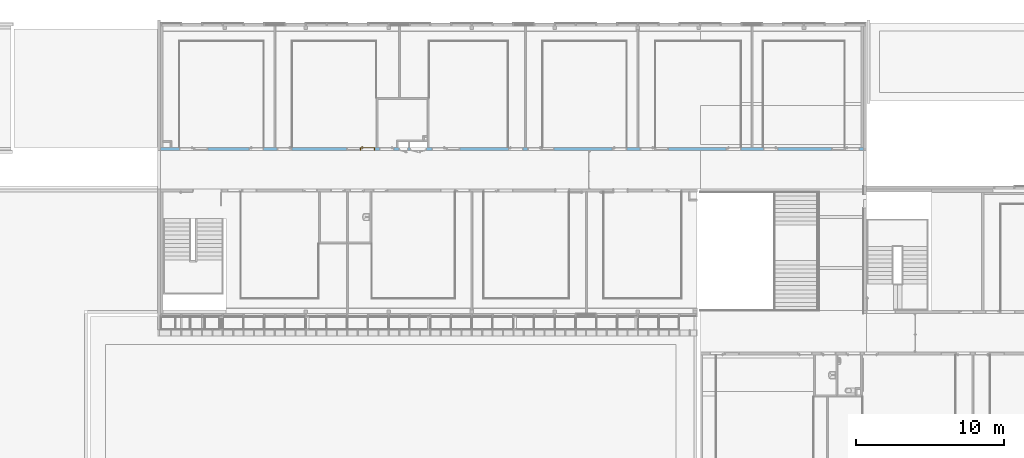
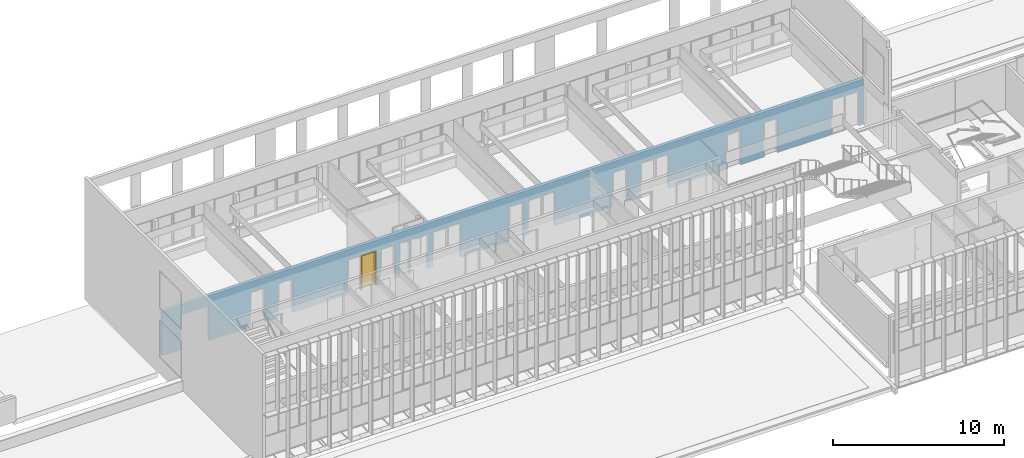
# One storey, part 51 of 106: 1 door, 21 openings, plus 1 element that does not belong to this part.
"""IFC2X3 building model written with IfcOpenShell, lengths in centimetres."""

import ifcopenshell
import ifcopenshell.guid

model = None  # the IFC model being written
_history = None  # IfcOwnerHistory: only IFC2X3 demands one
_inside = {}  # id of a spatial element -> (the spatial element, [elements in it])
_under = {}  # id of a project, library or spatial element -> (it, [spatial elements below it])
_declared = {}  # id of a project -> (the project, [libraries it declares])
_typed = {}  # id of a type object -> (the type object, [elements of that type])
_made_of = {}  # id of a material, layer set ... -> (it, [elements and type objects made of it])


def new_model(schema):
    """Start an empty IFC model of exactly this schema.

    Asked for "IFC4X3", IfcOpenShell would pick the latest addendum, in which some entities
    have other attributes; the version numbers below select the first issue.
    IFC2X3 requires an IfcOwnerHistory on every rooted entity: one is made here for all.
    """
    global model, _history
    if schema == "IFC4X3":
        model = ifcopenshell.file(schema_version=(4, 3, 0, 0))
    else:
        model = ifcopenshell.file(schema=schema)
    _inside.clear()
    _under.clear()
    _declared.clear()
    _typed.clear()
    _made_of.clear()
    _history = None
    if model.schema == "IFC2X3":
        org = make("IfcOrganization", Name="unknown")
        user = make(
            "IfcPersonAndOrganization",
            ThePerson=make("IfcPerson", FamilyName="unknown"),
            TheOrganization=org,
        )
        app = make(
            "IfcApplication",
            ApplicationDeveloper=org,
            Version="unknown",
            ApplicationFullName="unknown",
            ApplicationIdentifier="unknown",
        )
        _history = make(
            "IfcOwnerHistory",
            OwningUser=user,
            OwningApplication=app,
            ChangeAction="ADDED",
            CreationDate=0,
        )
    return model


def make(cls, **values):
    """One entity of the class cls with the attributes given. An attribute that is None is left unset."""
    return model.create_entity(
        cls, **{name: value for name, value in values.items() if value is not None}
    )


def entity(cls, *values):
    """Any entity or typed value of the class cls, its attributes in the order of the schema. None: left unset."""
    e = model.create_entity(cls)
    for i, value in enumerate(values):
        if value is not None:
            e[i] = value
    return e


def rooted(cls, **values):
    """An entity with a GlobalId (a new one), such as an element, a storey or a relation."""
    return make(cls, GlobalId=ifcopenshell.guid.new(), OwnerHistory=_history, **values)


def si_unit(unit_type, name, prefix=None):
    """IfcSIUnit, for example si_unit("LENGTHUNIT", "METRE", prefix="MILLI")."""
    return make("IfcSIUnit", UnitType=unit_type, Prefix=prefix, Name=name)


def converted_unit(unit_type, name, factor, base, dimensions=None, offset=None):
    """IfcConversionBasedUnit, such as the inch: factor (a typed value) times the base unit."""
    return make(
        "IfcConversionBasedUnit"
        if offset is None
        else "IfcConversionBasedUnitWithOffset",
        ConversionOffset=offset,
        Dimensions=None
        if dimensions is None
        else entity("IfcDimensionalExponents", *dimensions),
        UnitType=unit_type,
        Name=name,
        ConversionFactor=make(
            "IfcMeasureWithUnit", ValueComponent=factor, UnitComponent=base
        ),
    )


def derived_unit(unit_type, elements):
    """IfcDerivedUnit: a product of units, each with its exponent."""
    return make(
        "IfcDerivedUnit",
        Elements=[
            make("IfcDerivedUnitElement", Unit=unit, Exponent=power)
            for unit, power in elements
        ],
        UnitType=unit_type,
    )


def assignment(units):
    """IfcUnitAssignment: the units of a project."""
    return None if units is None else make("IfcUnitAssignment", Units=units)


def point(xyz):
    """IfcCartesianPoint."""
    return None if xyz is None else make("IfcCartesianPoint", Coordinates=xyz)


def direction(xyz):
    """IfcDirection."""
    return None if xyz is None else make("IfcDirection", DirectionRatios=xyz)


def frame(location, z_axis=None, x_axis=None):
    """IfcAxis2Placement3D, a coordinate frame: its origin and axes. An axis left out is left unset."""
    return make(
        "IfcAxis2Placement3D",
        Location=point(location),
        Axis=direction(z_axis),
        RefDirection=direction(x_axis),
    )


def frame_2d(location, x_axis=None):
    """IfcAxis2Placement2D, a coordinate frame in the plane: its origin and x axis."""
    return make(
        "IfcAxis2Placement2D", Location=point(location), RefDirection=direction(x_axis)
    )


def origin():
    """The frame at (0, 0, 0) with its axes left unset."""
    return frame((0.0, 0.0, 0.0))


def place(relative_to, where):
    """IfcLocalPlacement: puts the frame where relative to a parent placement (None: the world)."""
    return make(
        "IfcLocalPlacement", PlacementRelTo=relative_to, RelativePlacement=where
    )


def context(
    kind, dimensions, precision=None, world=None, true_north=None, identifier=None
):
    """IfcGeometricRepresentationContext, for example the 3D "Model" context."""
    return make(
        "IfcGeometricRepresentationContext",
        ContextIdentifier=identifier,
        ContextType=kind,
        CoordinateSpaceDimension=dimensions,
        Precision=precision,
        WorldCoordinateSystem=world,
        TrueNorth=true_north,
    )


def subcontext(parent, identifier, kind, view, scale=None):
    """IfcGeometricRepresentationSubContext, for example "Body" below "Model"."""
    return make(
        "IfcGeometricRepresentationSubContext",
        ContextIdentifier=identifier,
        ContextType=kind,
        ParentContext=parent,
        TargetScale=scale,
        TargetView=view,
    )


def project(units=None, contexts=None):
    """IfcProject with its units and contexts."""
    return rooted(
        "IfcProject",
        Name="project",
        RepresentationContexts=contexts,
        UnitsInContext=assignment(units),
    )


def spatial(cls, under=None, at=None, **own):
    """A site, building, storey or space (cls), placed at a placement, below another one or the project."""
    s = rooted(cls, ObjectPlacement=at, **own)
    if under is not None:
        _under.setdefault(under.id(), (under, []))[1].append(s)
    return s


def polyline(points):
    """IfcPolyline through the points."""
    return make("IfcPolyline", Points=[point(p) for p in points])


def profile(cls, at=None, kind="AREA", **sizes):
    """A parametric profile (cls). Its sizes go by their IFC names, for example OverallWidth=200.0."""
    return make(cls, ProfileType=kind, Position=at, **sizes)


def rectangle(**sizes):
    """IfcRectangleProfileDef."""
    return profile("IfcRectangleProfileDef", **sizes)


def extrude(swept, where, along, depth):
    """IfcExtrudedAreaSolid: the profile swept, set in the frame where, extruded along a direction by depth."""
    return make(
        "IfcExtrudedAreaSolid",
        SweptArea=swept,
        Position=where,
        ExtrudedDirection=direction(along),
        Depth=depth,
    )


def clip(a, b, op="DIFFERENCE"):
    """IfcBooleanClippingResult: the solid a cut by the half space b."""
    return make(
        "IfcBooleanClippingResult", Operator=op, FirstOperand=a, SecondOperand=b
    )


def bounded_halfspace(plane, agree, where, boundary):
    """IfcPolygonalBoundedHalfSpace: a half space limited to a polygon's prism."""
    return make(
        "IfcPolygonalBoundedHalfSpace",
        BaseSurface=make("IfcPlane", Position=plane),
        AgreementFlag=agree,
        Position=where,
        PolygonalBoundary=boundary,
    )


def faces_of(points, faces, orient=None, outer=None):
    """IfcFace entities. A face is a list of loops; a loop is a list of indices into points, from 0.

    orient and outer hold one flag for each loop. By default every Orientation is true, the
    first loop of a face is its IfcFaceOuterBound and the others are IfcFaceBound.
    """
    made = []
    for i, loops in enumerate(faces):
        bounds = []
        for j, loop in enumerate(loops):
            is_outer = j == 0 if outer is None else outer[i][j]
            bounds.append(
                make(
                    "IfcFaceOuterBound" if is_outer else "IfcFaceBound",
                    Bound=make("IfcPolyLoop", Polygon=[points[k] for k in loop]),
                    Orientation=True if orient is None else orient[i][j],
                )
            )
        made.append(make("IfcFace", Bounds=bounds))
    return made


def faceted_brep(points, faces, orient=None, outer=None, voids=None):
    """IfcFacetedBrep: a solid bounded by flat faces; with voids (closed shells), ...WithVoids."""
    shared = [point(p) for p in points]
    hull = make("IfcClosedShell", CfsFaces=faces_of(shared, faces, orient, outer))
    if voids is None:
        return make("IfcFacetedBrep", Outer=hull)
    return make(
        "IfcFacetedBrepWithVoids",
        Outer=hull,
        Voids=[
            make(cls, CfsFaces=faces_of(shared, fs, o, b)) for cls, fs, o, b in voids
        ],
    )


def shape(context_of_items, identifier, shape_type, items):
    """IfcShapeRepresentation: the items that make up one representation, for example the "Body"."""
    return make(
        "IfcShapeRepresentation",
        ContextOfItems=context_of_items,
        RepresentationIdentifier=identifier,
        RepresentationType=shape_type,
        Items=items,
    )


def source(mapping_origin, context_of_items, identifier, shape_type, items):
    """IfcRepresentationMap: a shape defined once, which mapped items show again and again."""
    return make(
        "IfcRepresentationMap",
        MappingOrigin=mapping_origin,
        MappedRepresentation=shape(context_of_items, identifier, shape_type, items),
    )


def transform(
    local_origin,
    x_axis=None,
    y_axis=None,
    z_axis=None,
    scale=None,
    scale2=None,
    scale3=None,
    uniform=True,
):
    """IfcCartesianTransformationOperator3D, or its non-uniform kind. x_axis, y_axis, z_axis: its Axis1, 2, 3."""
    if uniform:
        return make(
            "IfcCartesianTransformationOperator3D",
            Axis1=direction(x_axis),
            Axis2=direction(y_axis),
            LocalOrigin=point(local_origin),
            Scale=scale,
            Axis3=direction(z_axis),
        )
    return make(
        "IfcCartesianTransformationOperator3DnonUniform",
        Axis1=direction(x_axis),
        Axis2=direction(y_axis),
        LocalOrigin=point(local_origin),
        Scale=scale,
        Axis3=direction(z_axis),
        Scale2=scale2,
        Scale3=scale3,
    )


def mapped(mapping_source, mapping_target):
    """IfcMappedItem: shows the shape of a source again, moved by a transform."""
    return make(
        "IfcMappedItem", MappingSource=mapping_source, MappingTarget=mapping_target
    )


def material(Name=None, Category=None):
    """IfcMaterial."""
    return make("IfcMaterial", Name=Name, Category=Category)


def material_list(materials):
    """IfcMaterialList."""
    return make("IfcMaterialList", Materials=materials)


def layer(
    of_material, thickness, ventilated=None, Name=None, Category=None, Priority=None
):
    """IfcMaterialLayer: one layer of a wall or slab, of a material (None: an air gap)."""
    return make(
        "IfcMaterialLayer",
        Material=of_material,
        LayerThickness=thickness,
        IsVentilated=ventilated,
        Name=Name,
        Category=Category,
        Priority=Priority,
    )


def layer_set(layers, Name=None):
    """IfcMaterialLayerSet."""
    return make("IfcMaterialLayerSet", MaterialLayers=layers, LayerSetName=Name)


def layer_usage(for_layer_set, set_direction, sense, offset, extent=None):
    """IfcMaterialLayerSetUsage: how a layer set lies in its element."""
    return make(
        "IfcMaterialLayerSetUsage",
        ForLayerSet=for_layer_set,
        LayerSetDirection=set_direction,
        DirectionSense=sense,
        OffsetFromReferenceLine=offset,
        ReferenceExtent=extent,
    )


def made_of(thing, what):
    """Note that an element or type object is made of a material, layer set ...; save() writes the relation."""
    if what is not None:
        _made_of.setdefault(what.id(), (what, []))[1].append(thing)
    return thing


def type_object(cls, material=None, **own):
    """A type object (cls), such as IfcWallType, which elements share."""
    return made_of(rooted(cls, **own), material)


def type_shapes(of_type, sources):
    """Give a type object the sources (RepresentationMaps) that its elements show as mapped items."""
    of_type.RepresentationMaps = sources


def element(
    cls,
    number,
    at=None,
    inside=None,
    cuts=None,
    type_object=None,
    material=None,
    context=None,
    identifier="Body",
    shape_type=None,
    held_by="IfcProductDefinitionShape",
    body=None,
    shapes=None,
    **own,
):
    """One element of the class cls, such as IfcWall. Its Tag is "e" and its number.

    at: its placement. inside: the storey or other place that contains it. cuts: it is an
    opening in that element (IfcRelVoidsElement). A single representation is given by context,
    identifier, shape_type and body (its items); several are given by shapes. held_by: the class
    of the entity that holds the representations. save() writes the other relations.
    """
    e = rooted(cls, Tag="e%d" % number, ObjectPlacement=at, **own)
    if body is not None:
        shapes = [shape(context, identifier, shape_type, body)]
    if shapes is not None:
        e.Representation = make(held_by, Representations=shapes)
    if inside is not None:
        _inside.setdefault(inside.id(), (inside, []))[1].append(e)
    if cuts is not None:
        rooted(
            "IfcRelVoidsElement", RelatingBuildingElement=cuts, RelatedOpeningElement=e
        )
    if type_object is not None:
        _typed.setdefault(type_object.id(), (type_object, []))[1].append(e)
    return made_of(e, material)


def fill(opening, filler):
    """IfcRelFillsElement: the door or window that sits in an opening."""
    return rooted(
        "IfcRelFillsElement",
        RelatingOpeningElement=opening,
        RelatedBuildingElement=filler,
    )


def aggregate(whole, parts):
    """IfcRelAggregates: a whole, such as a stair, and the parts it consists of."""
    return rooted("IfcRelAggregates", RelatingObject=whole, RelatedObjects=parts)


def save(model, path):
    """Write the relations noted so far, then the file.

    IfcRelAggregates (storeys below a building ...), IfcRelContainedInSpatialStructure (elements
    in a storey), IfcRelDefinesByType, IfcRelAssociatesMaterial and IfcRelDeclares: one each for
    every whole, place, type object, material and project.
    """
    for whole, parts in _under.values():
        aggregate(whole, parts)
    for where, things in _inside.values():
        rooted(
            "IfcRelContainedInSpatialStructure",
            RelatedElements=things,
            RelatingStructure=where,
        )
    for kind, things in _typed.values():
        rooted("IfcRelDefinesByType", RelatedObjects=things, RelatingType=kind)
    for what, things in _made_of.values():
        rooted("IfcRelAssociatesMaterial", RelatedObjects=things, RelatingMaterial=what)
    for by, libraries in _declared.values():
        rooted("IfcRelDeclares", RelatingContext=by, RelatedDefinitions=libraries)
    model.write(path)


model = new_model("IFC2X3")

# Units and contexts
model_context = context("Model", 3, precision=0.001, world=origin(), true_north=direction((6.12303176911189e-17, 1.0)))
body_context = subcontext(model_context, "Body", "Model", "MODEL_VIEW")
ifc_project = project(units=[si_unit("LENGTHUNIT", "METRE", prefix="CENTI"), si_unit("AREAUNIT", "SQUARE_METRE"), si_unit("VOLUMEUNIT", "CUBIC_METRE"), converted_unit("PLANEANGLEUNIT", "DEGREE", entity("IfcRatioMeasure", 0.0174532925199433), si_unit("PLANEANGLEUNIT", "RADIAN"), dimensions=[0, 0, 0, 0, 0, 0, 0]), si_unit("MASSUNIT", "GRAM", prefix="KILO"), derived_unit("MASSDENSITYUNIT", [(si_unit("MASSUNIT", "GRAM", prefix="KILO"), 1), (si_unit("LENGTHUNIT", "METRE"), -3)]), si_unit("TIMEUNIT", "SECOND"), si_unit("FREQUENCYUNIT", "HERTZ"), si_unit("THERMODYNAMICTEMPERATUREUNIT", "DEGREE_CELSIUS"), derived_unit("THERMALTRANSMITTANCEUNIT", [(si_unit("MASSUNIT", "GRAM", prefix="KILO"), 1), (si_unit("THERMODYNAMICTEMPERATUREUNIT", "KELVIN"), -1), (si_unit("TIMEUNIT", "SECOND"), -3)]), derived_unit("VOLUMETRICFLOWRATEUNIT", [(si_unit("LENGTHUNIT", "METRE"), 3), (si_unit("TIMEUNIT", "SECOND"), -1)]), si_unit("ELECTRICCURRENTUNIT", "AMPERE"), si_unit("ELECTRICVOLTAGEUNIT", "VOLT"), si_unit("POWERUNIT", "WATT"), si_unit("FORCEUNIT", "NEWTON", prefix="KILO"), si_unit("ILLUMINANCEUNIT", "LUX"), si_unit("LUMINOUSFLUXUNIT", "LUMEN"), si_unit("LUMINOUSINTENSITYUNIT", "CANDELA"), derived_unit("USERDEFINED", [(si_unit("MASSUNIT", "GRAM", prefix="KILO"), -1), (si_unit("LENGTHUNIT", "METRE"), -2), (si_unit("TIMEUNIT", "SECOND"), 3), (si_unit("LUMINOUSFLUXUNIT", "LUMEN"), 1)]), derived_unit("LINEARVELOCITYUNIT", [(si_unit("LENGTHUNIT", "METRE"), 1), (si_unit("TIMEUNIT", "SECOND"), -1)]), si_unit("PRESSUREUNIT", "PASCAL"), derived_unit("USERDEFINED", [(si_unit("LENGTHUNIT", "METRE"), -2), (si_unit("MASSUNIT", "GRAM", prefix="KILO"), 1), (si_unit("TIMEUNIT", "SECOND"), -2)])], contexts=[model_context])

# Site, building, storey
site_placement = place(None, frame((-2781.94577612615, 7442.24238424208, 0.0)))
site = spatial("IfcSite", under=ifc_project, at=site_placement, Name="Default", CompositionType="ELEMENT")
building_placement = place(site_placement, origin())
building = spatial("IfcBuilding", under=site, at=building_placement, CompositionType="ELEMENT")
storey_placement = place(building_placement, frame((0.0, 0.0, 422.0)))
storey = spatial("IfcBuildingStorey", under=building, at=storey_placement, Name="Toiture - Cuisine", CompositionType="ELEMENT", Elevation=421.999999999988)

# Wall, openings, door
ifc_material_1 = material(Name="01 - Maçonnerie")
ifc_layer = layer(ifc_material_1, 20.0)
ifc_layer_set = layer_set([ifc_layer], Name="Mur de base:04 - Structure - béton - 20cm")
ifc_layer_usage = layer_usage(ifc_layer_set, "AXIS2", "NEGATIVE", 10.0)
wall_type = type_object("IfcWallType", Name="Mur de base:04 - Structure - béton - 20cm", PredefinedType="STANDARD", material=ifc_layer_set)
wall_placement = place(building_placement, frame((-8409.49987766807, -820.048500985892, 422.0)))
wall = element("IfcWallStandardCase", 1, at=wall_placement, inside=storey, type_object=wall_type, material=ifc_layer_usage, Name="Mur de base:04 - Structure - béton - 20cm", ObjectType="Mur de base:04 - Structure - béton - 20cm", context=body_context, shape_type="Clipping", body=[
    clip(extrude(rectangle(XDim=4741.49999798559, YDim=20.0, at=frame_2d((2370.74999899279, 2.04281036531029e-14), x_axis=(-1.0, 0.0))), origin(), (0.0, 0.0, 1.0), 321.0), bounded_halfspace(frame((4741.49999798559, -10.0, 321.0), z_axis=(0.0, 0.0, -1.0), x_axis=(0.0, 1.0, 0.0)), True, frame((4741.49999798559, -10.0, 321.0)), polyline([(0.0, 0.0), (0.0, 20.0), (-15.3000000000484, 20.0), (-125.300000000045, 20.0), (-127.300000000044, 20.0), (-675.800000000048, 20.0), (-677.800000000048, 20.0), (-745.800000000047, 20.0), (-755.800000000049, 20.0), (-825.800000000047, 20.0), (-827.800000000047, 20.0), (-1403.80000000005, 20.0), (-1405.80000000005, 20.0), (-1516.49999791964, 20.0), (-1526.49999791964, 20.0), (-1595.78709704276, 20.0), (-1597.78709704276, 20.0), (-2163.80000000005, 20.0), (-2165.80000000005, 20.0), (-2275.80000000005, 20.0), (-2285.80000000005, 20.0), (-2395.80000000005, 20.0), (-2397.80000000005, 20.0), (-2931.80000000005, 20.0), (-2941.80000000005, 20.0), (-3060.80000000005, 20.0), (-3070.80000000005, 20.0), (-3137.80000000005, 20.0), (-3147.80000000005, 20.0), (-3275.80000000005, 20.0), (-3285.80000000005, 20.0), (-3416.49999791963, 20.0), (-3535.80000000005, 20.0), (-3545.80000000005, 20.0), (-3611.80000000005, 20.0), (-3853.80000000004, 20.0), (-3855.80000000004, 20.0), (-3965.80000000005, 20.0), (-3975.80000000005, 20.0), (-4044.30000000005, 20.0), (-4046.30000000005, 20.0), (-4614.19999798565, 20.0), (-4616.19999798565, 20.0), (-4666.19999798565, 20.0), (-4676.19999798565, 20.0), (-4726.19999798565, 20.0), (-4741.49999798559, 20.0), (-4741.49999798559, 0.0), (-1854.0, 0.0), (-1844.0, 0.0), (-1840.0, 0.0), (0.0, 0.0)]))),
])
opening_1_placement = place(wall_placement, frame((1669.50000006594, 10.0, 0.0)))
element("IfcOpeningElement", 2, at=opening_1_placement, cuts=wall, Name="Int. Simple:PP Placard (0.55m x 2.50m):1", ObjectType="Opening", context=body_context, shape_type="SweptSolid", body=[
    extrude(rectangle(XDim=248.500000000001, YDim=61.9999999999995, at=frame_2d((124.250000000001, 30.9999999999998), x_axis=(1.0, 0.0))), frame((0.0, 0.0, 0.0), z_axis=(0.0, -1.0, 0.0), x_axis=(0.0, 0.0, 1.0)), (0.0, 0.0, 1.0), 20.0),
])
opening_2_placement = place(wall_placement, frame((1794.50000006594, 10.0, 0.0)))
element("IfcOpeningElement", 3, at=opening_2_placement, cuts=wall, Name="Int. Double:PP Placard (1.05m x 2.50m):1", ObjectType="Opening", context=body_context, shape_type="SweptSolid", body=[
    extrude(rectangle(XDim=248.500000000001, YDim=112.0, at=frame_2d((124.250000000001, 56.0000000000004), x_axis=(1.0, 0.0))), frame((0.0, 0.0, 0.0), z_axis=(0.0, -1.0, 0.0), x_axis=(0.0, 0.0, 1.0)), (0.0, 0.0, 1.0), 20.0),
])
opening_3_placement = place(wall_placement, frame((126.799999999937, -10.0, 0.0)))
element("IfcOpeningElement", 4, at=opening_3_placement, cuts=wall, Name="Int. Simple:PV (0.93m x 2.50m):1", ObjectType="Opening", context=body_context, shape_type="SweptSolid", body=[
    extrude(rectangle(XDim=248.500000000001, YDim=99.9999999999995, at=frame_2d((124.250000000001, 50.0), x_axis=(1.0, 0.0))), frame((0.0, 0.0, 0.0), z_axis=(0.0, 1.0, 0.0), x_axis=(0.0, 0.0, 1.0)), (0.0, 0.0, 1.0), 20.0),
])
opening_4_placement = place(wall_placement, frame((595.699997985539, -10.0, 0.0)))
element("IfcOpeningElement", 5, at=opening_4_placement, cuts=wall, Name="Int. Simple:PV (0.93m x 2.50m):1", ObjectType="Opening", context=body_context, shape_type="SweptSolid", body=[
    extrude(rectangle(XDim=248.500000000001, YDim=99.9999999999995, at=frame_2d((124.250000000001, 49.9999999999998), x_axis=(1.0, 0.0))), frame((0.0, 0.0, 0.0), z_axis=(0.0, 1.0, 0.0), x_axis=(0.0, 0.0, 1.0)), (0.0, 0.0, 1.0), 20.0),
])
opening_5_placement = place(wall_placement, frame((785.699997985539, -10.0, 0.0)))
element("IfcOpeningElement", 6, at=opening_5_placement, cuts=wall, Name="Int. Simple:PV (0.93m x 2.50m):1", ObjectType="Opening", context=body_context, shape_type="SweptSolid", body=[
    extrude(rectangle(XDim=248.500000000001, YDim=99.9999999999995, at=frame_2d((124.250000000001, 50.0), x_axis=(1.0, 0.0))), frame((0.0, 0.0, 0.0), z_axis=(0.0, 1.0, 0.0), x_axis=(0.0, 0.0, 1.0)), (0.0, 0.0, 1.0), 20.0),
])
opening_6_placement = place(wall_placement, frame((1345.69999798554, -10.0, 0.0)))
opening_6 = element("IfcOpeningElement", 7, at=opening_6_placement, cuts=wall, Name="Int. Simple:PV (0.93m x 2.50m):1", ObjectType="Opening", context=body_context, shape_type="SweptSolid", body=[
    extrude(rectangle(XDim=248.500000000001, YDim=99.9999999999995, at=frame_2d((124.250000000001, 49.9999999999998), x_axis=(1.0, 0.0))), frame((0.0, 0.0, 0.0), z_axis=(0.0, 1.0, 0.0), x_axis=(0.0, 0.0, 1.0)), (0.0, 0.0, 1.0), 20.0),
])
opening_7_placement = place(wall_placement, frame((1475.69999798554, -10.0, 0.0)))
element("IfcOpeningElement", 8, at=opening_7_placement, cuts=wall, Name="Int. Simple:PP simple (0.93m x 2.50m):1", ObjectType="Opening", context=body_context, shape_type="SweptSolid", body=[
    extrude(rectangle(XDim=248.500000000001, YDim=99.9999999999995, at=frame_2d((124.250000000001, 50.0), x_axis=(1.0, 0.0))), frame((0.0, 0.0, 0.0), z_axis=(0.0, 1.0, 0.0), x_axis=(0.0, 0.0, 1.0)), (0.0, 0.0, 1.0), 20.0),
])
opening_8_placement = place(wall_placement, frame((1829.69999798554, -10.0, 0.0)))
element("IfcOpeningElement", 9, at=opening_8_placement, cuts=wall, Name="Int. Simple:PV (0.93m x 2.50m):1", ObjectType="Opening", context=body_context, shape_type="SweptSolid", body=[
    extrude(rectangle(XDim=248.500000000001, YDim=99.9999999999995, at=frame_2d((124.250000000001, 50.0), x_axis=(1.0, 0.0))), frame((0.0, 0.0, 0.0), z_axis=(0.0, 1.0, 0.0), x_axis=(0.0, 0.0, 1.0)), (0.0, 0.0, 1.0), 20.0),
])
opening_9_placement = place(wall_placement, frame((2345.69999798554, -10.0, 0.0)))
element("IfcOpeningElement", 10, at=opening_9_placement, cuts=wall, Name="Int. Simple:PV (0.93m x 2.50m):1", ObjectType="Opening", context=body_context, shape_type="SweptSolid", body=[
    extrude(rectangle(XDim=248.500000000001, YDim=99.9999999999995, at=frame_2d((124.250000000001, 49.9999999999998), x_axis=(1.0, 0.0))), frame((0.0, 0.0, 0.0), z_axis=(0.0, 1.0, 0.0), x_axis=(0.0, 0.0, 1.0)), (0.0, 0.0, 1.0), 20.0),
])
opening_10_placement = place(wall_placement, frame((2475.69999798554, -10.0, 0.0)))
element("IfcOpeningElement", 11, at=opening_10_placement, cuts=wall, Name="Int. Simple:PV (0.93m x 2.50m):1", ObjectType="Opening", context=body_context, shape_type="SweptSolid", body=[
    extrude(rectangle(XDim=248.500000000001, YDim=99.9999999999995, at=frame_2d((124.250000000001, 50.0), x_axis=(1.0, 0.0))), frame((0.0, 0.0, 0.0), z_axis=(0.0, 1.0, 0.0), x_axis=(0.0, 0.0, 1.0)), (0.0, 0.0, 1.0), 20.0),
])
opening_11_placement = place(wall_placement, frame((3045.69999798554, -10.0, 0.0)))
element("IfcOpeningElement", 12, at=opening_11_placement, cuts=wall, Name="Int. Simple:PV (0.93m x 2.50m):1", ObjectType="Opening", context=body_context, shape_type="SweptSolid", body=[
    extrude(rectangle(XDim=248.500000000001, YDim=99.9999999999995, at=frame_2d((124.250000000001, 49.9999999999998), x_axis=(1.0, 0.0))), frame((0.0, 0.0, 0.0), z_axis=(0.0, 1.0, 0.0), x_axis=(0.0, 0.0, 1.0)), (0.0, 0.0, 1.0), 20.0),
])
opening_12_placement = place(wall_placement, frame((3235.69999798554, -10.0, 0.0)))
element("IfcOpeningElement", 13, at=opening_12_placement, cuts=wall, Name="Int. Simple:PV (0.93m x 2.50m):1", ObjectType="Opening", context=body_context, shape_type="SweptSolid", body=[
    extrude(rectangle(XDim=248.500000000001, YDim=99.9999999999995, at=frame_2d((124.250000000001, 50.0), x_axis=(1.0, 0.0))), frame((0.0, 0.0, 0.0), z_axis=(0.0, 1.0, 0.0), x_axis=(0.0, 0.0, 1.0)), (0.0, 0.0, 1.0), 20.0),
])
opening_13_placement = place(wall_placement, frame((3815.69999798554, -10.0, 0.0)))
element("IfcOpeningElement", 14, at=opening_13_placement, cuts=wall, Name="Int. Simple:PV (0.93m x 2.50m):1", ObjectType="Opening", context=body_context, shape_type="SweptSolid", body=[
    extrude(rectangle(XDim=248.500000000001, YDim=99.9999999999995, at=frame_2d((124.250000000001, 49.9999999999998), x_axis=(1.0, 0.0))), frame((0.0, 0.0, 0.0), z_axis=(0.0, 1.0, 0.0), x_axis=(0.0, 0.0, 1.0)), (0.0, 0.0, 1.0), 20.0),
])
opening_14_placement = place(wall_placement, frame((4065.69999798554, -10.0, 0.0)))
element("IfcOpeningElement", 15, at=opening_14_placement, cuts=wall, Name="Int. Simple:PV (0.93m x 2.50m):1", ObjectType="Opening", context=body_context, shape_type="SweptSolid", body=[
    extrude(rectangle(XDim=248.500000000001, YDim=99.9999999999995, at=frame_2d((124.250000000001, 50.0), x_axis=(1.0, 0.0))), frame((0.0, 0.0, 0.0), z_axis=(0.0, 1.0, 0.0), x_axis=(0.0, 0.0, 1.0)), (0.0, 0.0, 1.0), 20.0),
])
opening_15_placement = place(wall_placement, frame((4616.19999798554, -10.0, 0.0)))
element("IfcOpeningElement", 16, at=opening_15_placement, cuts=wall, Name="Int. Simple:PV (0.93m x 2.50m):1", ObjectType="Opening", context=body_context, shape_type="SweptSolid", body=[
    extrude(rectangle(XDim=248.500000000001, YDim=99.9999999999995, at=frame_2d((124.250000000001, 49.9999999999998), x_axis=(1.0, 0.0))), frame((0.0, 0.0, 0.0), z_axis=(0.0, 1.0, 0.0), x_axis=(0.0, 0.0, 1.0)), (0.0, 0.0, 1.0), 20.0),
])
opening_16_placement = place(wall_placement, frame((1255.69999798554, -10.0, 0.0)))
element("IfcOpeningElement", 17, at=opening_16_placement, cuts=wall, Name="châssis intérieur vitré:châssis intérieur vitré (h=270) R+1:1", ObjectType="Opening", context=body_context, shape_type="SweptSolid", body=[
    extrude(rectangle(XDim=250.0, YDim=89.9999999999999, at=frame_2d((125.0, 45.0), x_axis=(1.0, 0.0))), frame((0.0, 0.0, 0.0), z_axis=(0.0, 1.0, 0.0), x_axis=(0.0, 0.0, 1.0)), (0.0, 0.0, 1.0), 20.0),
])
opening_17_placement = place(wall_placement, frame((1929.69999798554, -10.0, 0.0)))
element("IfcOpeningElement", 18, at=opening_17_placement, cuts=wall, Name="châssis intérieur vitré:châssis intérieur vitré (h=270) R+1:1", ObjectType="Opening", context=body_context, shape_type="SweptSolid", body=[
    extrude(rectangle(XDim=250.0, YDim=89.9999999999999, at=frame_2d((125.0, 45.0), x_axis=(1.0, 0.0))), frame((0.0, 0.0, 0.0), z_axis=(0.0, 1.0, 0.0), x_axis=(0.0, 0.0, 1.0)), (0.0, 0.0, 1.0), 20.0),
])
opening_18_placement = place(wall_placement, frame((4526.19999798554, -10.0, 0.0)))
element("IfcOpeningElement", 19, at=opening_18_placement, cuts=wall, Name="châssis intérieur vitré:châssis intérieur vitré (h=270) R+1:1", ObjectType="Opening", context=body_context, shape_type="SweptSolid", body=[
    extrude(rectangle(XDim=250.0, YDim=89.9999999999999, at=frame_2d((125.0, 45.0000000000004), x_axis=(1.0, 0.0))), frame((0.0, 0.0, 0.0), z_axis=(0.0, 1.0, 0.0), x_axis=(0.0, 0.0, 1.0)), (0.0, 0.0, 1.0), 20.0),
])
opening_19_placement = place(wall_placement, frame((3335.69999798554, -10.0, 0.0)))
element("IfcOpeningElement", 20, at=opening_19_placement, cuts=wall, Name="châssis intérieur vitré:châssis intérieur vitré (h=270) R+1:1", ObjectType="Opening", context=body_context, shape_type="SweptSolid", body=[
    extrude(rectangle(XDim=250.0, YDim=89.9999999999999, at=frame_2d((125.0, 45.0000000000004), x_axis=(1.0, 0.0))), frame((0.0, 0.0, 0.0), z_axis=(0.0, 1.0, 0.0), x_axis=(0.0, 0.0, 1.0)), (0.0, 0.0, 1.0), 20.0),
])
opening_20_placement = place(wall_placement, frame((2565.69999798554, -10.0, 0.0)))
element("IfcOpeningElement", 21, at=opening_20_placement, cuts=wall, Name="châssis intérieur vitré:châssis intérieur vitré (h=270) R+1:1", ObjectType="Opening", context=body_context, shape_type="SweptSolid", body=[
    extrude(rectangle(XDim=250.0, YDim=89.9999999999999, at=frame_2d((125.0, 45.0000000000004), x_axis=(1.0, 0.0))), frame((0.0, 0.0, 0.0), z_axis=(0.0, 1.0, 0.0), x_axis=(0.0, 0.0, 1.0)), (0.0, 0.0, 1.0), 20.0),
])
opening_21_placement = place(wall_placement, frame((226.799999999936, -10.0, 0.0)))
element("IfcOpeningElement", 22, at=opening_21_placement, cuts=wall, Name="châssis intérieur vitré:châssis intérieur vitré (h=270) R+1:1", ObjectType="Opening", context=body_context, shape_type="SweptSolid", body=[
    extrude(rectangle(XDim=250.0, YDim=91.4999999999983, at=frame_2d((125.0, 45.7499999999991), x_axis=(1.0, 0.0))), frame((0.0, 0.0, 0.0), z_axis=(0.0, 1.0, 0.0), x_axis=(0.0, 0.0, 1.0)), (0.0, 0.0, 1.0), 20.0),
])
ifc_material_2 = material(Name="Finition Peinture - Blanc satiné")
ifc_material_3 = material(Name="Bois - Panneau de porte")
ifc_material_4 = material(Name="Bois - Cadre de porte")
ifc_material_list_1 = material_list([ifc_material_2, ifc_material_3, ifc_material_4])
ifc_material_list_2 = material_list([ifc_material_2, ifc_material_3, ifc_material_4])
door_style = type_object("IfcDoorStyle", Name="PV (0.93m x 2.50m)", ConstructionType="NOTDEFINED", OperationType="SINGLE_SWING_RIGHT", ParameterTakesPrecedence=False, Sizeable=False, material=ifc_material_list_2)
shared_shape = source(origin(), body_context, "Body", "Brep", [
    faceted_brep([(99.5000000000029, -0.500000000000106, 87.0), (99.5000000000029, -0.500000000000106, 108.0), (98.535276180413, -0.500000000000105, 108.399601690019), (97.5000000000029, -0.500000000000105, 108.535898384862), (96.4647238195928, -0.500000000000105, 108.399601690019), (95.500000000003, -0.500000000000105, 108.0), (95.5000000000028, -0.500000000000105, 87.0), (96.4647238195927, -0.500000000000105, 86.6003983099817), (97.5000000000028, -0.500000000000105, 86.464101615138), (98.5352761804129, -0.500000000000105, 86.6003983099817), (99.5000000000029, 0.0, 108.0), (99.5000000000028, 0.0, 87.0), (98.5352761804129, 0.0, 86.6003983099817), (97.5000000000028, 0.0, 86.464101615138), (96.4647238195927, 0.0, 86.6003983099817), (95.5000000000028, 0.0, 87.0), (95.5000000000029, 0.0, 108.0), (96.4647238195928, 0.0, 108.399601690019), (97.5000000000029, 0.0, 108.535898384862), (98.535276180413, 0.0, 108.399601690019)], [[[0, 1, 2, 3, 4, 5, 6, 7, 8, 9]], [[10, 11, 12, 13, 14, 15, 16, 17, 18, 19]], [[9, 12, 11, 0]], [[8, 13, 12, 9]], [[7, 14, 13, 8]], [[7, 6, 15, 14]], [[15, 6, 5, 16]], [[4, 17, 16, 5]], [[3, 18, 17, 4]], [[2, 19, 18, 3]], [[2, 1, 10, 19]], [[11, 10, 1, 0]]]),
    faceted_brep([(99.5000000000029, 4.0, 87.0), (99.5000000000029, 4.0, 108.0), (98.535276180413, 4.0, 108.399601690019), (97.5000000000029, 4.0, 108.535898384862), (96.4647238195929, 4.0, 108.399601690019), (95.500000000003, 4.0, 108.0), (95.5000000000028, 4.0, 87.0), (96.4647238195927, 4.0, 86.6003983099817), (97.5000000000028, 4.0, 86.464101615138), (98.5352761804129, 4.0, 86.6003983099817), (97.5000000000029, 4.49999999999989, 108.535898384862), (98.535276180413, 4.49999999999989, 108.399601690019), (99.5000000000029, 4.49999999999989, 108.0), (99.5000000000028, 4.49999999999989, 87.0), (98.5352761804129, 4.49999999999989, 86.6003983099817), (97.5000000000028, 4.49999999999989, 86.464101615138), (96.4647238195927, 4.49999999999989, 86.6003983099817), (95.5000000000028, 4.49999999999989, 87.0), (95.500000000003, 4.49999999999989, 108.0), (96.4647238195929, 4.49999999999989, 108.399601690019)], [[[0, 1, 2, 3, 4, 5, 6, 7, 8, 9]], [[10, 11, 12, 13, 14, 15, 16, 17, 18, 19]], [[4, 19, 18, 5]], [[3, 10, 19, 4]], [[2, 11, 10, 3]], [[2, 1, 12, 11]], [[13, 12, 1, 0]], [[9, 14, 13, 0]], [[8, 15, 14, 9]], [[7, 16, 15, 8]], [[7, 6, 17, 16]], [[17, 6, 5, 18]]]),
    faceted_brep([(97.2974701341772, -0.500000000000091, 100.778044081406), (97.7025298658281, -0.500000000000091, 100.778044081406), (98.1000000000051, -0.500000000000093, 100.699999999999), (98.100000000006, -0.500000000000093, 99.2999999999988), (97.7025298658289, -0.500000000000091, 99.221955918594), (97.297470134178, -0.500000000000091, 99.2219559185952), (96.9000000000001, -0.500000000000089, 99.3000000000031), (96.9000000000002, -0.500000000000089, 100.7), (97.7025298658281, -3.10045754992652, 100.778044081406), (98.1000000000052, -3.26509507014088, 100.7), (97.2974701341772, -2.93267631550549, 100.778044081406), (95.9298602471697, -4.30028620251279, 100.778044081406), (96.0976414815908, -4.70534593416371, 100.778044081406), (96.9000000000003, -2.76803879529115, 100.7), (96.9000000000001, -2.76803879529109, 99.3000000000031), (97.297470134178, -2.93267631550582, 99.2219559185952), (97.7025298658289, -3.10045754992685, 99.221955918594), (96.0976414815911, -4.70534593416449, 99.221955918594), (95.9298602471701, -4.30028620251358, 99.2219559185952), (98.100000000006, -3.26509507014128, 99.2999999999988), (96.2622790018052, -5.1028160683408, 100.7), (95.7652227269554, -3.90281606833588, 100.7), (95.7652227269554, -3.90281606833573, 99.3000000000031), (96.2622790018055, -5.10281606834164, 99.2999999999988), (87.4981359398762, -5.10281606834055, 100.7), (87.4981359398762, -4.70534593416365, 100.778044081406), (87.4981359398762, -4.30028620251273, 100.778044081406), (87.4981359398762, -3.90281606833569, 100.699999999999), (87.4981359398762, -3.90281606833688, 99.3000000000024), (87.4981359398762, -4.30028620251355, 99.2219559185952), (87.4981359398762, -4.70534593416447, 99.221955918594), (87.4981359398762, -5.10281606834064, 99.2999999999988), (91.7139980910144, -4.5028160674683, 100.78786867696), (92.2692302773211, -5.1028160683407, 100.7), (91.6316793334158, -3.9028160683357, 100.7), (91.631679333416, -3.90281606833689, 99.3000000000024), (91.7139981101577, -4.50281607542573, 99.2121313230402), (92.2692310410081, -5.10281606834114, 99.2999999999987)], [[[0, 1, 2, 3, 4, 5, 6, 7]], [[2, 1, 8, 9]], [[1, 0, 10, 11, 12, 8]], [[0, 7, 13, 10]], [[14, 13, 7, 6]], [[5, 15, 14, 6]], [[5, 4, 16, 17, 18, 15]], [[3, 19, 16, 4]], [[9, 19, 3, 2]], [[9, 8, 12, 20]], [[10, 13, 21, 11]], [[22, 21, 13, 14]], [[14, 15, 18, 22]], [[16, 19, 23, 17]], [[20, 23, 19, 9]], [[24, 25, 26, 27, 28, 29, 30, 31]], [[32, 25, 33]], [[33, 25, 24]], [[33, 20, 12]], [[11, 34, 32]], [[34, 11, 21]], [[27, 26, 34]], [[32, 26, 25]], [[32, 34, 26]], [[32, 33, 12]], [[11, 32, 12]], [[21, 22, 35, 28, 27, 34]], [[36, 29, 35]], [[30, 36, 37]], [[18, 35, 22]], [[29, 28, 35]], [[30, 37, 31]], [[37, 17, 23]], [[36, 17, 37]], [[36, 18, 17]], [[36, 35, 18]], [[29, 36, 30]], [[23, 20, 33, 24, 31, 37]]]),
    faceted_brep([(97.2974701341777, 4.49999999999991, 99.2219559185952), (97.7025298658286, 4.49999999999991, 99.221955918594), (98.1000000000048, 4.4999999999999, 99.2999999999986), (98.1000000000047, 4.4999999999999, 100.7), (97.7025298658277, 4.49999999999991, 100.778044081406), (97.2974701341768, 4.49999999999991, 100.778044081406), (96.8999999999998, 4.49999999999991, 100.7), (96.900000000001, 4.49999999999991, 99.3000000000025), (96.8999999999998, 6.7485204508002, 100.7), (96.8999999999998, 6.74852045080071, 99.3000000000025), (97.2974701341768, 6.91315797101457, 100.778044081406), (97.7025298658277, 7.0809392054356, 100.778044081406), (96.0838906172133, 8.69957845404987, 100.778044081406), (95.9161093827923, 8.29451872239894, 100.778044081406), (98.1000000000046, 7.24557672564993, 100.7), (98.1000000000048, 7.24557672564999, 99.2999999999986), (97.7025298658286, 7.08093920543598, 99.221955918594), (97.2974701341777, 6.91315797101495, 99.2219559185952), (95.9161093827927, 8.29451872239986, 99.2219559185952), (96.0838906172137, 8.69957845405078, 99.221955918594), (95.751471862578, 7.89704858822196, 100.7), (95.7514718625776, 7.89704858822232, 99.3000000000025), (96.2485281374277, 9.09704858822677, 100.7), (96.2485281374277, 9.09704858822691, 99.2999999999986), (87.4954216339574, 8.29451872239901, 100.778044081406), (87.4954216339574, 8.69957845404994, 100.778044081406), (87.4954216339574, 9.09704858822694, 100.7), (87.4954216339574, 9.09704858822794, 99.2999999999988), (87.4954216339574, 8.6995784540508, 99.221955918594), (87.4954216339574, 8.29451872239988, 99.2219559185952), (87.4954216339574, 7.89704858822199, 99.3000000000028), (87.4954216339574, 7.89704858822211, 100.7), (91.6234467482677, 7.89704858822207, 100.7), (91.6234479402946, 7.89704858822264, 99.3000000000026), (91.7057655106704, 8.49704858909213, 100.78786867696), (92.255479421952, 9.09704858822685, 100.7), (92.2554795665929, 9.09704858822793, 99.2999999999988), (91.7057654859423, 8.49704858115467, 99.2121313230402)], [[[0, 1, 2, 3, 4, 5, 6, 7]], [[8, 9, 7, 6]], [[5, 10, 8, 6]], [[5, 4, 11, 12, 13, 10]], [[3, 14, 11, 4]], [[14, 3, 2, 15]], [[2, 1, 16, 15]], [[1, 0, 17, 18, 19, 16]], [[0, 7, 9, 17]], [[20, 21, 9, 8]], [[8, 10, 13, 20]], [[14, 22, 12, 11]], [[23, 22, 14, 15]], [[15, 16, 19, 23]], [[17, 9, 21, 18]], [[24, 25, 26, 27, 28, 29, 30, 31]], [[21, 20, 32, 31, 30, 33]], [[34, 24, 32]], [[25, 34, 35]], [[13, 32, 20]], [[24, 31, 32]], [[25, 35, 26]], [[35, 12, 22]], [[34, 12, 35]], [[34, 13, 12]], [[34, 32, 13]], [[24, 34, 25]], [[22, 23, 36, 27, 26, 35]], [[37, 28, 36]], [[36, 28, 27]], [[36, 23, 19]], [[18, 33, 37]], [[33, 18, 21]], [[30, 29, 33]], [[37, 29, 28]], [[37, 33, 29]], [[37, 36, 19]], [[18, 37, 19]]]),
    faceted_brep([(103.500000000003, 4.0, 245.0), (103.500000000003, 4.0, 0.0), (10.5000000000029, 4.0, 0.0), (10.5000000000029, 4.0, 245.0), (103.500000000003, 0.0, 245.0), (10.5000000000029, 0.0, 245.0), (10.5000000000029, 0.0, 0.0), (103.500000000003, 0.0, 0.0)], [[[0, 1, 2, 3]], [[4, 5, 6, 7]], [[3, 5, 4, 0]], [[2, 6, 5, 3]], [[1, 7, 6, 2]], [[0, 4, 7, 1]]]),
    faceted_brep([(107.0, 20.0, 0.0), (107.0, 0.0, 0.0), (108.500000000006, 0.0, 0.0), (108.500000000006, -0.500000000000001, 0.0), (103.500000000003, -0.500000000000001, 0.0), (103.500000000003, 4.0, 0.0), (102.0, 4.0, 0.0), (102.0, 20.5000000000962, 0.0), (108.500000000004, 20.5000000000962, 0.0), (108.500000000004, 20.0, 0.0), (108.500000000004, 20.0, 250.0), (5.50000000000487, 20.0, 250.0), (5.50000000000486, 20.0, 0.0), (7.0, 20.0, 0.0), (7.0, 20.0, 248.500000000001), (107.0, 20.0, 248.500000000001), (108.500000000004, 20.5000000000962, 250.0), (102.0, 20.5000000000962, 243.5), (12.0, 20.5000000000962, 243.5), (12.0, 20.5000000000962, 0.0), (5.50000000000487, 20.5000000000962, 0.0), (5.50000000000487, 20.5000000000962, 250.0), (102.0, 4.0, 243.5), (103.500000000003, 4.0, 245.0), (10.5000000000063, 4.0, 245.0), (10.5000000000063, 4.0, 0.0), (12.0, 4.0, 0.0), (12.0, 4.0, 243.5), (103.500000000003, -0.500000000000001, 245.0), (108.500000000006, -0.500000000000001, 250.0), (5.5000000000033, -0.500000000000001, 250.0), (5.50000000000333, -0.500000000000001, 0.0), (10.5000000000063, -0.500000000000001, 0.0), (10.5000000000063, -0.500000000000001, 245.0), (108.500000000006, 0.0, 250.0), (107.0, 0.0, 248.500000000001), (7.0, 0.0, 248.500000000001), (7.0, 0.0, 0.0), (5.5000000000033, 0.0, 0.0), (5.50000000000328, 0.0, 250.0)], [[[0, 1, 2, 3, 4, 5, 6, 7, 8, 9]], [[9, 10, 11, 12, 13, 14, 15, 0]], [[8, 16, 10, 9]], [[7, 17, 18, 19, 20, 21, 16, 8]], [[7, 6, 22, 17]], [[5, 23, 24, 25, 26, 27, 22, 6]], [[5, 4, 28, 23]], [[3, 29, 30, 31, 32, 33, 28, 4]], [[2, 34, 29, 3]], [[1, 35, 36, 37, 38, 39, 34, 2]], [[0, 15, 35, 1]], [[14, 13, 37, 36]], [[13, 12, 20, 19, 26, 25, 32, 31, 38, 37]], [[21, 20, 12, 11]], [[27, 26, 19, 18]], [[33, 32, 25, 24]], [[39, 38, 31, 30]], [[16, 21, 11, 10]], [[22, 27, 18, 17]], [[28, 33, 24, 23]], [[34, 39, 30, 29]], [[15, 14, 36, 35]]]),
])
type_shapes(door_style, [shared_shape])
door_placement = place(opening_6_placement, frame((107.0, 20.0, 0.0), z_axis=(0.0, 0.0, 1.0), x_axis=(-1.0, 0.0, 0.0)))
door = element("IfcDoor", 23, at=door_placement, inside=storey, type_object=door_style, material=ifc_material_list_1, Name="Int. Simple:PV (0.93m x 2.50m)", ObjectType="Int. Simple:PV (0.93m x 2.50m)", OverallHeight=248.500000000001, OverallWidth=99.9999999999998, context=body_context, shape_type="MappedRepresentation", body=[
    mapped(shared_shape, transform((0.0, 0.0, 0.0), scale=1.0)),
])
fill(opening_6, door)

save(model, "model.ifc")
